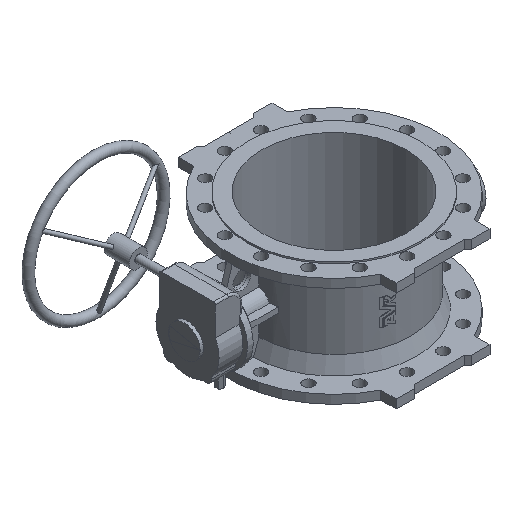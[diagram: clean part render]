
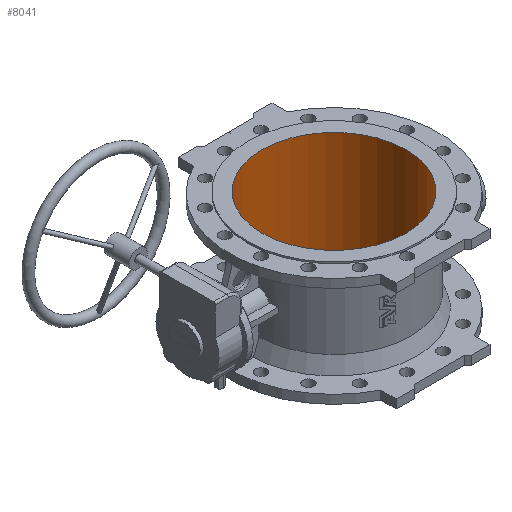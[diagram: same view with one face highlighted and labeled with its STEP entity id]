
A CAD part, isometric view. The second image highlights one B-rep face of the part: STEP entity #8041.
In plain terms, the highlighted cylindrical face has radius 200 mm (diameter 400 mm), a full revolution.
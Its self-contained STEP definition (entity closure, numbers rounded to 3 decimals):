
#1783 = DIRECTION ( 'NONE',  ( -1., 0., 0. ) ) ;
#1784 = DIRECTION ( 'NONE',  ( 0., 0., 1. ) ) ;
#1785 = CARTESIAN_POINT ( 'NONE',  ( 0., -3., 155. ) ) ;
#2082 = DIRECTION ( 'NONE',  ( 0., 0., 1. ) ) ;
#2085 = CARTESIAN_POINT ( 'NONE',  ( 0., -3., 133.661 ) ) ;
#2086 = DIRECTION ( 'NONE',  ( -1., 0., 0. ) ) ;
#2620 = AXIS2_PLACEMENT_3D ( 'NONE', #2085, #2082, #2086 ) ;
#2913 = EDGE_LOOP ( 'NONE', ( #4240 ) ) ;
#2914 = EDGE_LOOP ( 'NONE', ( #4242 ) ) ;
#4011 = FACE_OUTER_BOUND ( 'NONE', #2913, .T. ) ;
#4021 = FACE_OUTER_BOUND ( 'NONE', #2914, .T. ) ;
#4025 = CYLINDRICAL_SURFACE ( 'NONE', #2620, 200. ) ;
#4240 = ORIENTED_EDGE ( 'NONE', *, *, #10318, .F. ) ;
#4242 = ORIENTED_EDGE ( 'NONE', *, *, #8197, .T. ) ;
#4288 = CIRCLE ( 'NONE', #7836, 200. ) ;
#7836 = AXIS2_PLACEMENT_3D ( 'NONE', #1785, #1784, #1783 ) ;
#8041 = ADVANCED_FACE ( 'NONE', ( #4011, #4021 ), #4025, .F. ) ;
#8197 = EDGE_CURVE ( 'NONE', #11905, #11905, #4288, .T. ) ;
#8977 = AXIS2_PLACEMENT_3D ( 'NONE', #10457, #10458, #10459 ) ;
#10318 = EDGE_CURVE ( 'NONE', #11940, #11940, #11393, .T. ) ;
#10457 = CARTESIAN_POINT ( 'NONE',  ( 0., -3., -155. ) ) ;
#10458 = DIRECTION ( 'NONE',  ( 0., 0., 1. ) ) ;
#10459 = DIRECTION ( 'NONE',  ( -1., 0., 0. ) ) ;
#11393 = CIRCLE ( 'NONE', #8977, 200. ) ;
#11905 = VERTEX_POINT ( 'NONE', #12881 ) ;
#11940 = VERTEX_POINT ( 'NONE', #12916 ) ;
#12881 = CARTESIAN_POINT ( 'NONE',  ( -200., -3., 155. ) ) ;
#12916 = CARTESIAN_POINT ( 'NONE',  ( -200., -3., -155. ) ) ;
